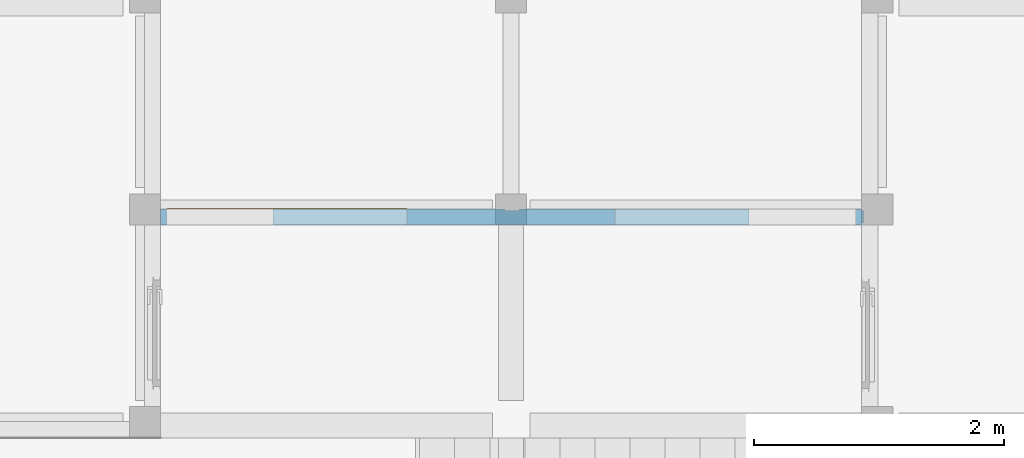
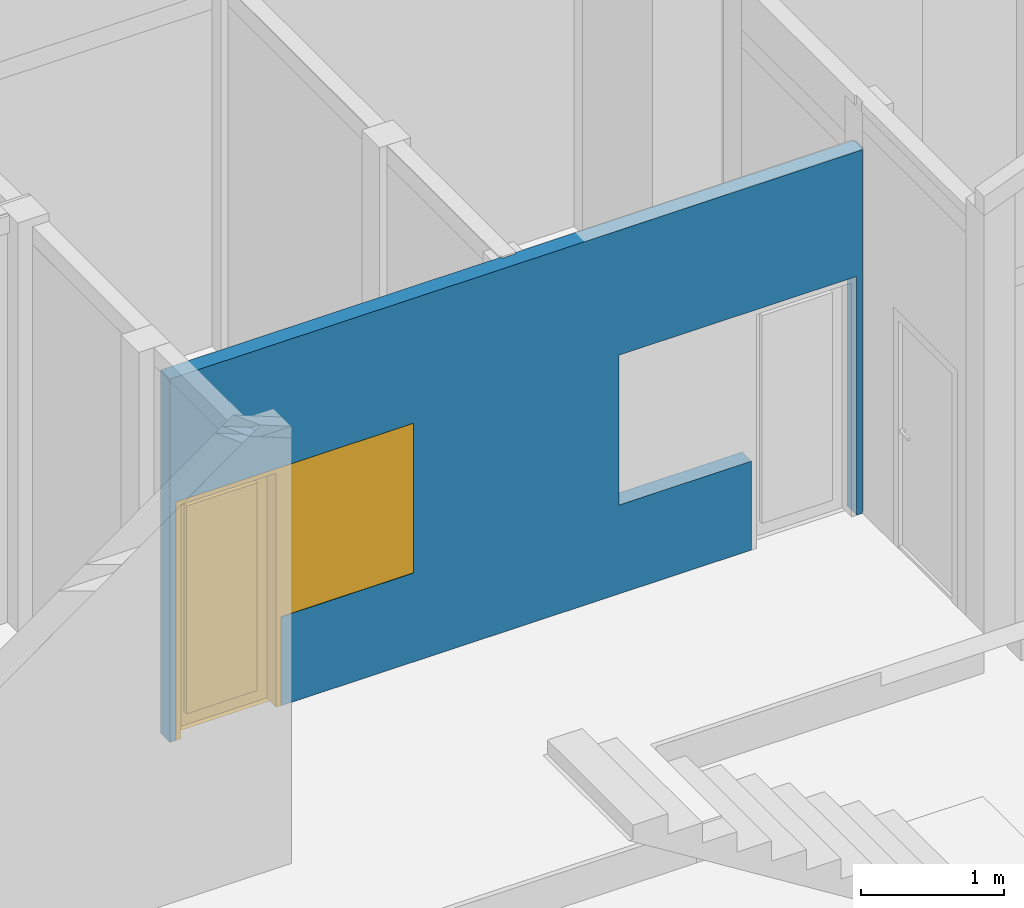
# One storey, part 3 of 8: 1 door, 1 wall, 2 openings.
"""IFC4X3_ADD2 building model written with IfcOpenShell, lengths in millimetres."""

from ifc_helpers import new_model, entity, si_unit, converted_unit, frame, origin_with_axes, origin_2d_with_axis, place, context, subcontext, project, spatial, line, indexed_curve, outline, extrude, polygons, source, transform, mapped, material, layer, layer_set, layer_usage, type_object, type_shapes, element, fill, save


model = new_model("IFC4X3_ADD2")

# Units and contexts
model_context = context("Model", 3, precision=1e-05, world=origin_with_axes())
plan_context = context("Plan", 2, precision=1e-05, world=origin_2d_with_axis())
body_context = subcontext(model_context, "Body", "Model", "MODEL_VIEW")
ifc_project = project(units=[si_unit("VOLUMEUNIT", "CUBIC_METRE"), si_unit("LENGTHUNIT", "METRE", prefix="MILLI"), converted_unit("PLANEANGLEUNIT", "degree", entity("IfcReal", 0.0174532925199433), si_unit("PLANEANGLEUNIT", "RADIAN"), dimensions=[0, 0, 0, 0, 0, 0, 0]), si_unit("AREAUNIT", "SQUARE_METRE")], contexts=[model_context, plan_context])

# Site, building, storey
site_placement = place(None, origin_with_axes())
site = spatial("IfcSite", under=ifc_project, at=site_placement, Name="My Site")
building_placement = place(site_placement, origin_with_axes())
building = spatial("IfcBuilding", under=site, at=building_placement, Name="My Building")
storey_placement = place(building_placement, origin_with_axes())
storey = spatial("IfcBuildingStorey", under=building, at=storey_placement, Name="Lantai 2")

# Wall, openings, door
ifc_material_1 = material(Name="plester")
ifc_layer_1 = layer(ifc_material_1, 15.0000009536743, Priority=1)
ifc_material_2 = material(Name="brick", Category="Uncategorised")
ifc_layer_2 = layer(ifc_material_2, 100.0, Priority=4)
ifc_layer_3 = layer(ifc_material_1, 15.0000009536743)
ifc_layer_set = layer_set([ifc_layer_1, ifc_layer_2, ifc_layer_3])
ifc_layer_usage = layer_usage(ifc_layer_set, "AXIS2", "NEGATIVE", 0.0)
wall_type = type_object("IfcWallType", Name="WALL-130", PredefinedType="SOLIDWALL", material=ifc_layer_set)
wall_placement = place(storey_placement, frame((8520.00086834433, 1549.99983310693, 3500.00023841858), z_axis=(0.0, 0.0, 1.0), x_axis=(-0.999999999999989, 1.50995802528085e-07, 0.0)))
wall = element("IfcWall", 1, at=wall_placement, inside=storey, type_object=wall_type, material=ifc_layer_usage, Name="Wall", context=body_context, shape_type="SweptSolid", body=[
    extrude(outline(indexed_curve([(-1.17678988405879e-05, -130.000001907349), (-1.04100642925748e-05, -115.000000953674), (-15.0000113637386, -115.000000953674), (-15.0000023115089, -15.0000009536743), (-1.35783454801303e-06, -15.0000009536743), (0.0, 0.0), (5600.00099997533, 0.0), (5600.00099997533, -130.000001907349), (2850.0005965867, -130.000001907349), (2850.00059724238, -115.000000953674), (2735.0005962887, -115.000000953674), (2735.00059563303, -130.000001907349)], segments=[line(1, 2, 3, 4, 5, 6, 7, 8, 9, 10, 11, 12, 1)])), origin_with_axes(), (0.0, 0.0, 1.0), 3107.2108745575),
])
shared_shape_1 = source(origin_with_axes(), body_context, "Body", "SweptSolid", [
    extrude(outline(indexed_curve([(850.000183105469, 0.0), (0.0, 0.0), (0.0, 2039.99987792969), (1920.0, 2039.99987792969), (1920.0, 759.999938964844), (850.000183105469, 759.999938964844), (850.000183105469, 0.0)])), frame((-9.53674259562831e-07, -600.0, 0.0), z_axis=(0.0, -1.0, 0.0), x_axis=(1.0, 0.0, 0.0)), (0.0, 0.0, -1.0), 1200.0),
])
opening_1_placement = place(wall_placement, frame((5549.99940965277, -2.84826399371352, 0.0), z_axis=(0.0, 0.0, 1.0), x_axis=(-0.999999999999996, 8.74227765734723e-08, 0.0)))
opening_1 = element("IfcOpeningElement", 2, at=opening_1_placement, cuts=wall, Name="Opening", PredefinedType="OPENING", context=body_context, shape_type="MappedRepresentation", body=[
    mapped(shared_shape_1, transform((0.0, 0.0, 0.0), x_axis=(1.0, 0.0, 0.0), y_axis=(0.0, 1.0, 0.0), z_axis=(0.0, 0.0, 1.0), scale=1.0)),
])
shared_shape_2 = source(origin_with_axes(), body_context, "Body", "SweptSolid", [
    extrude(outline(indexed_curve([(849.998352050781, 759.999755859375), (1919.99755859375, 759.999755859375), (1919.99755859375, 2039.99987792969), (0.0, 2039.99987792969), (0.0, 0.0), (849.998352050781, -3.23401396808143e-12), (849.998352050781, 759.999755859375)])), frame((0.0, -600.0, 0.0), z_axis=(0.0, -1.0, 0.0), x_axis=(1.0, 0.0, 0.0)), (0.0, 0.0, -1.0), 1200.0),
])
opening_2_placement = place(wall_placement, frame((50.0006209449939, -130.0001068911, 0.0), z_axis=(0.0, 0.0, 1.0), x_axis=(1.0, 2.64697796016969e-23, 0.0)))
element("IfcOpeningElement", 3, at=opening_2_placement, cuts=wall, Name="Opening", PredefinedType="OPENING", context=body_context, shape_type="MappedRepresentation", body=[
    mapped(shared_shape_2, transform((0.0, 0.0, 0.0), x_axis=(1.0, 0.0, 0.0), y_axis=(0.0, 1.0, 0.0), z_axis=(0.0, 0.0, 1.0), scale=1.0)),
])
door_type = type_object("IfcDoorType", Name="1", OperationType="NOTDEFINED", PredefinedType="DOOR")
shared_shape_3 = source(origin_with_axes(), body_context, "Body", "Tessellation", [
    polygons([(-0.000953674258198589, 0.0, 1999.99975585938), (-0.000953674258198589, 0.0, 0.0), (39.9992446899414, 0.0, 0.0), (39.9992446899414, 0.0, 1999.99975585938), (-0.000953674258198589, 0.0, 2039.99987792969), (39.9992446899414, 0.0, 2039.99987792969), (809.999633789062, 0.0, 1999.99975585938), (809.999633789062, 0.0, 2039.99987792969), (849.999633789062, 0.0, 1999.99975585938), (849.999633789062, 0.0, 2039.99987792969), (809.999633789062, 0.0, 760.000122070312), (809.999633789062, 0.0, 0.0), (849.999633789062, 0.0, 0.0), (849.999633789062, 0.0, 760.000122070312), (1349.99963378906, 0.0, 1999.99975585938), (1349.99963378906, 0.0, 2039.99987792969), (1379.99938964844, 0.0, 1999.99975585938), (1379.99938964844, 0.0, 2039.99987792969), (1349.99963378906, 0.0, 800.000061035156), (1379.99938964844, 0.0, 800.000061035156), (1879.99951171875, 0.0, 1999.99975585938), (1879.99951171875, 0.0, 2039.99987792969), (1919.99951171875, 0.0, 1999.99975585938), (1919.99951171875, 0.0, 2039.99987792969), (1879.99951171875, 0.0, 800.000061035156), (1919.99951171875, 0.0, 800.000061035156), (1879.99951171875, 0.0, 760.000122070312), (1919.99951171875, 0.0, 760.000122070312), (1349.99963378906, 0.0, 760.000122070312), (1379.99938964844, 0.0, 760.000122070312), (809.999633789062, 0.0, 800.000061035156), (849.999633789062, 0.0, 800.000061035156), (-0.000953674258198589, 129.999969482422, 0.0), (39.9992446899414, 129.999969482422, 1999.99975585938), (39.9992446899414, 129.999969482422, 0.0), (-0.000953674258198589, 129.999969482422, 1999.99975585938), (-0.000953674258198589, 129.999969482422, 2039.99987792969), (39.9992446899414, 129.999969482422, 2039.99987792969), (809.999633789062, 129.999969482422, 2039.99987792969), (809.999633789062, 129.999969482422, 1999.99975585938), (849.999633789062, 129.999969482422, 2039.99987792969), (849.999633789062, 129.999969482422, 1999.99975585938), (809.999633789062, 129.999969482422, 0.0), (809.999633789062, 129.999969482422, 760.000122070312), (849.999633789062, 129.999969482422, 760.000122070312), (849.999633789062, 129.999969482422, 0.0), (1349.99963378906, 129.999969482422, 2039.99987792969), (1349.99963378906, 129.999969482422, 1999.99975585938), (1379.99938964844, 129.999969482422, 2039.99987792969), (1379.99938964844, 129.999969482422, 1999.99975585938), (1349.99963378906, 129.999969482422, 800.000061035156), (1379.99938964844, 129.999969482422, 800.000061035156), (1879.99951171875, 129.999969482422, 2039.99987792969), (1879.99951171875, 129.999969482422, 1999.99975585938), (1919.99951171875, 129.999969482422, 2039.99987792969), (1919.99951171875, 129.999969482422, 1999.99975585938), (1879.99951171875, 129.999969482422, 800.000061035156), (1919.99951171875, 129.999969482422, 800.000061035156), (1879.99951171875, 129.999969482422, 760.000122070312), (1919.99951171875, 129.999969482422, 760.000122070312), (1349.99963378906, 129.999969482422, 760.000122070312), (1379.99938964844, 129.999969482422, 760.000122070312), (809.999633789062, 129.999969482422, 800.000061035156), (849.999633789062, 129.999969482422, 800.000061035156)], [[[1, 2, 3]], [[1, 3, 4]], [[5, 4, 6]], [[5, 1, 4]], [[6, 4, 7]], [[6, 7, 8]], [[8, 7, 9]], [[8, 9, 10]], [[11, 12, 13]], [[11, 13, 14]], [[10, 9, 15]], [[10, 15, 16]], [[16, 15, 17]], [[16, 17, 18]], [[15, 19, 20]], [[15, 20, 17]], [[18, 17, 21]], [[18, 21, 22]], [[22, 21, 23]], [[22, 23, 24]], [[21, 25, 26]], [[21, 26, 23]], [[25, 27, 28]], [[25, 28, 26]], [[19, 29, 30]], [[19, 30, 20]], [[31, 11, 14]], [[31, 14, 32]], [[7, 31, 32]], [[7, 32, 9]], [[14, 29, 19]], [[32, 14, 19]], [[20, 27, 25]], [[20, 30, 27]], [[33, 34, 35]], [[33, 36, 34]], [[36, 37, 38]], [[36, 38, 34]], [[34, 38, 39]], [[34, 39, 40]], [[40, 39, 41]], [[40, 41, 42]], [[43, 44, 45]], [[43, 45, 46]], [[42, 41, 47]], [[42, 47, 48]], [[48, 47, 49]], [[48, 49, 50]], [[51, 48, 50]], [[51, 50, 52]], [[50, 49, 53]], [[50, 53, 54]], [[54, 53, 55]], [[54, 55, 56]], [[57, 54, 56]], [[57, 56, 58]], [[59, 57, 58]], [[59, 58, 60]], [[61, 51, 52]], [[61, 52, 62]], [[44, 63, 64]], [[44, 64, 45]], [[63, 40, 42]], [[63, 42, 64]], [[45, 64, 51]], [[45, 51, 61]], [[62, 52, 57]], [[62, 57, 59]], [[19, 15, 48]], [[19, 48, 51]], [[17, 20, 52]], [[17, 52, 50]], [[41, 8, 10]], [[41, 39, 8]], [[50, 21, 17]], [[50, 54, 21]], [[43, 13, 12]], [[43, 46, 13]], [[12, 11, 44]], [[12, 44, 43]], [[4, 3, 35]], [[4, 35, 34]], [[53, 18, 22]], [[53, 49, 18]], [[31, 7, 40]], [[31, 40, 63]], [[2, 1, 36]], [[2, 36, 33]], [[24, 23, 56]], [[24, 56, 55]], [[14, 13, 46]], [[14, 46, 45]], [[11, 31, 63]], [[11, 63, 44]], [[33, 3, 2]], [[33, 35, 3]], [[55, 22, 24]], [[55, 53, 22]], [[42, 15, 9]], [[42, 48, 15]], [[9, 32, 64]], [[9, 64, 42]], [[38, 5, 6]], [[38, 37, 5]], [[47, 10, 16]], [[47, 41, 10]], [[25, 21, 54]], [[25, 54, 57]], [[45, 29, 14]], [[45, 61, 29]], [[1, 5, 37]], [[1, 37, 36]], [[23, 26, 58]], [[23, 58, 56]], [[51, 32, 19]], [[51, 64, 32]], [[61, 30, 29]], [[61, 62, 30]], [[49, 16, 18]], [[49, 47, 16]], [[62, 27, 30]], [[62, 59, 27]], [[34, 7, 4]], [[34, 40, 7]], [[59, 28, 27]], [[59, 60, 28]], [[57, 20, 25]], [[57, 52, 20]], [[39, 6, 8]], [[39, 38, 6]], [[26, 28, 60]], [[26, 60, 58]]]),
    polygons([(1350.00012207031, 0.0, 859.999938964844), (1350.00012207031, 30.0, 859.999938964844), (1350.00012207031, 30.0, 799.999938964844), (1350.00012207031, 0.0, 799.999938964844), (1290.00012207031, 0.0, 859.999938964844), (1350.00012207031, 0.0, 1939.99975585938), (1290.00012207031, 0.0, 1939.99975585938), (910.000244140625, 30.0, 1939.99975585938), (1290.00012207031, 30.0, 1939.99975585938), (910.000244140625, 0.0, 1939.99975585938), (910.000244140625, 0.0, 1999.99975585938), (1290.00012207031, 0.0, 1999.99975585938), (1290.00012207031, 30.0, 1999.99975585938), (1350.00012207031, 30.0, 1999.99975585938), (1350.00012207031, 0.0, 1999.99975585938), (1350.00012207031, 30.0, 1939.99975585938), (1290.00012207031, 30.0, 859.999938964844), (910.000244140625, 30.0, 799.999938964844), (1290.00012207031, 30.0, 799.999938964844), (910.000244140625, 30.0, 859.999938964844), (910.000244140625, 0.0, 859.999938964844), (850.000305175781, 0.0, 1939.99975585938), (850.000305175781, 0.0, 859.999938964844), (910.000244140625, 0.0, 799.999938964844), (1290.00012207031, 0.0, 799.999938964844), (850.000305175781, 30.0, 799.999938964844), (850.000305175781, 0.0, 799.999938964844), (850.000305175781, 30.0, 859.999938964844), (850.000305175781, 30.0, 1939.99975585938), (850.000305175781, 30.0, 1999.99975585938), (910.000244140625, 30.0, 1999.99975585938), (850.000305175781, 0.0, 1999.99975585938)], [[[6, 1, 2]], [[1, 3, 2]], [[1, 4, 3]], [[5, 4, 1]], [[7, 5, 1]], [[7, 1, 6]], [[5, 7, 9]], [[12, 7, 6]], [[8, 7, 10]], [[8, 9, 7]], [[11, 10, 7]], [[11, 7, 12]], [[13, 11, 12]], [[12, 6, 15]], [[14, 13, 12]], [[14, 12, 15]], [[15, 16, 14]], [[15, 6, 16]], [[9, 14, 16]], [[17, 9, 16]], [[17, 16, 2]], [[6, 2, 16]], [[5, 9, 17]], [[19, 17, 2]], [[18, 20, 17]], [[18, 17, 19]], [[17, 20, 21]], [[17, 21, 5]], [[10, 21, 20]], [[21, 25, 5]], [[22, 21, 10]], [[22, 23, 21]], [[23, 24, 21]], [[21, 24, 25]], [[18, 25, 24]], [[5, 25, 4]], [[19, 4, 25]], [[18, 19, 25]], [[23, 27, 24]], [[26, 18, 24]], [[26, 24, 27]], [[27, 28, 26]], [[27, 23, 28]], [[23, 29, 28]], [[28, 29, 8]], [[28, 8, 20]], [[26, 28, 20]], [[23, 22, 29]], [[22, 30, 29]], [[29, 30, 31]], [[29, 31, 8]], [[31, 32, 11]], [[31, 30, 32]], [[13, 31, 11]], [[8, 31, 13]], [[32, 10, 11]], [[32, 22, 10]], [[22, 32, 30]], [[26, 20, 18]], [[10, 20, 8]], [[19, 2, 3]], [[19, 3, 4]], [[9, 13, 14]], [[8, 13, 9]]]),
    polygons([(139.999267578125, 89.9999542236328, 120.0), (139.999267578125, 129.999938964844, 120.0), (139.999267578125, 129.999938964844, 1899.99963378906), (139.999267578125, 89.9999542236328, 1899.99963378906), (39.9992446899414, 89.9999542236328, 120.0), (709.9990234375, 89.9999542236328, 120.0), (39.9992446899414, 89.9999542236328, 0.0), (139.999267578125, 89.9999542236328, 0.0), (139.999267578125, 129.999938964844, 0.0), (709.9990234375, 129.999938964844, 0.0), (709.9990234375, 89.9999542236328, 0.0), (809.999206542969, 89.9999542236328, 120.0), (809.999206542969, 89.9999542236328, 0.0), (809.999206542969, 129.999938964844, 0.0), (709.9990234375, 129.999938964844, 120.0), (809.999206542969, 129.999938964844, 120.0), (809.999206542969, 129.999938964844, 1899.99963378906), (709.9990234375, 129.999938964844, 1899.99963378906), (139.999267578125, 129.999938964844, 1999.99975585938), (709.9990234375, 129.999938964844, 1999.99975585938), (709.9990234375, 89.9999542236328, 1899.99963378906), (709.9990234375, 89.9999542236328, 1999.99975585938), (809.999206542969, 89.9999542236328, 1999.99975585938), (809.999206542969, 89.9999542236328, 1899.99963378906), (809.999206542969, 129.999938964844, 1999.99975585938), (139.999267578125, 89.9999542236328, 1999.99975585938), (39.9992446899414, 89.9999542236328, 1899.99963378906), (39.9992446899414, 89.9999542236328, 1999.99975585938), (39.9992446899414, 129.999938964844, 1999.99975585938), (39.9992446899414, 129.999938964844, 1899.99963378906), (39.9992446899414, 129.999938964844, 120.0), (39.9992446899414, 129.999938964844, 0.0)], [[[2, 6, 1]], [[1, 3, 2]], [[1, 4, 3]], [[5, 4, 1]], [[7, 5, 1]], [[8, 1, 6]], [[7, 1, 8]], [[9, 7, 8]], [[8, 6, 11]], [[10, 9, 8]], [[10, 8, 11]], [[11, 12, 13]], [[11, 6, 12]], [[14, 11, 13]], [[14, 10, 11]], [[15, 10, 14]], [[13, 16, 14]], [[15, 14, 16]], [[13, 12, 16]], [[12, 17, 16]], [[18, 16, 17]], [[18, 15, 16]], [[19, 3, 18]], [[19, 18, 20]], [[20, 18, 17]], [[18, 3, 4]], [[18, 4, 21]], [[21, 15, 18]], [[4, 22, 21]], [[21, 22, 23]], [[21, 23, 24]], [[6, 21, 24]], [[21, 6, 15]], [[24, 25, 17]], [[24, 23, 25]], [[6, 24, 12]], [[12, 24, 17]], [[20, 17, 25]], [[20, 25, 23]], [[20, 23, 22]], [[19, 22, 26]], [[19, 20, 22]], [[4, 26, 22]], [[27, 28, 26]], [[27, 26, 4]], [[29, 26, 28]], [[29, 19, 26]], [[28, 30, 29]], [[29, 30, 3]], [[29, 3, 19]], [[28, 27, 30]], [[27, 31, 30]], [[30, 31, 2]], [[30, 2, 3]], [[31, 9, 2]], [[31, 32, 9]], [[5, 32, 31]], [[27, 5, 31]], [[9, 32, 7]], [[5, 7, 32]], [[5, 27, 4]], [[2, 15, 6]], [[2, 10, 15]], [[2, 9, 10]]]),
    polygons([(139.999267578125, 94.9999465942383, 120.0), (139.999267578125, 124.999946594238, 120.0), (139.999267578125, 124.999946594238, 1899.99963378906), (139.999267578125, 94.9999465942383, 1899.99963378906), (709.9990234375, 94.9999465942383, 120.0), (709.9990234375, 94.9999465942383, 1899.99963378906), (709.9990234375, 124.999946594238, 120.0), (709.9990234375, 124.999946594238, 1899.99963378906)], [[[2, 5, 1]], [[1, 3, 2]], [[1, 4, 3]], [[4, 1, 5]], [[4, 5, 6]], [[2, 7, 5]], [[6, 5, 7]], [[6, 7, 8]], [[2, 8, 7]], [[2, 3, 8]], [[8, 4, 6]], [[8, 3, 4]]]),
    polygons([(1290.00012207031, 4.99999475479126, 1939.99975585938), (910.000244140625, 0.0, 1939.99975585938), (910.000244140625, 4.99999475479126, 1939.99975585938), (1290.00012207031, 0.0, 1939.99975585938), (910.000244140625, 4.99999475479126, 859.999938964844), (1290.00012207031, 4.99999475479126, 859.999938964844), (1290.00012207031, 0.0, 859.999938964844), (910.000244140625, 0.0, 859.999938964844)], [[[1, 2, 4]], [[1, 3, 2]], [[5, 3, 1]], [[4, 6, 1]], [[5, 1, 6]], [[5, 6, 7]], [[4, 7, 6]], [[2, 8, 7]], [[2, 7, 4]], [[5, 7, 8]], [[8, 3, 5]], [[8, 2, 3]]]),
    polygons([(1879.99890136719, 0.0, 859.999938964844), (1879.99890136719, 30.0, 859.999938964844), (1879.99890136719, 30.0, 799.999938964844), (1879.99890136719, 0.0, 799.999938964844), (1819.99890136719, 0.0, 859.999938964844), (1879.99890136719, 0.0, 1939.99975585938), (1819.99890136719, 0.0, 1939.99975585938), (1439.99890136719, 30.0, 1939.99975585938), (1819.99890136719, 30.0, 1939.99975585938), (1439.99890136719, 0.0, 1939.99975585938), (1439.99890136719, 0.0, 1999.99975585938), (1819.99890136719, 0.0, 1999.99975585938), (1819.99890136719, 30.0, 1999.99975585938), (1879.99890136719, 30.0, 1999.99975585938), (1879.99890136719, 0.0, 1999.99975585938), (1879.99890136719, 30.0, 1939.99975585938), (1819.99890136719, 30.0, 859.999938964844), (1439.99890136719, 30.0, 799.999938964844), (1819.99890136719, 30.0, 799.999938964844), (1439.99890136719, 30.0, 859.999938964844), (1439.99890136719, 0.0, 859.999938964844), (1379.99890136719, 0.0, 1939.99975585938), (1379.99890136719, 0.0, 859.999938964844), (1439.99890136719, 0.0, 799.999938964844), (1819.99890136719, 0.0, 799.999938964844), (1379.99890136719, 30.0, 799.999938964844), (1379.99890136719, 0.0, 799.999938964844), (1379.99890136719, 30.0, 859.999938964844), (1379.99890136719, 30.0, 1939.99975585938), (1379.99890136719, 30.0, 1999.99975585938), (1439.99890136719, 30.0, 1999.99975585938), (1379.99890136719, 0.0, 1999.99975585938)], [[[6, 1, 2]], [[1, 3, 2]], [[1, 4, 3]], [[5, 4, 1]], [[7, 5, 1]], [[7, 1, 6]], [[5, 7, 9]], [[12, 7, 6]], [[8, 7, 10]], [[8, 9, 7]], [[11, 10, 7]], [[11, 7, 12]], [[13, 11, 12]], [[12, 6, 15]], [[14, 13, 12]], [[14, 12, 15]], [[15, 16, 14]], [[15, 6, 16]], [[9, 14, 16]], [[17, 9, 16]], [[17, 16, 2]], [[6, 2, 16]], [[5, 9, 17]], [[19, 17, 2]], [[18, 20, 17]], [[18, 17, 19]], [[17, 20, 21]], [[17, 21, 5]], [[10, 21, 20]], [[21, 25, 5]], [[22, 21, 10]], [[22, 23, 21]], [[23, 24, 21]], [[21, 24, 25]], [[18, 25, 24]], [[5, 25, 4]], [[19, 4, 25]], [[18, 19, 25]], [[23, 27, 24]], [[26, 18, 24]], [[26, 24, 27]], [[27, 28, 26]], [[27, 23, 28]], [[23, 29, 28]], [[28, 29, 8]], [[28, 8, 20]], [[26, 28, 20]], [[23, 22, 29]], [[22, 30, 29]], [[29, 30, 31]], [[29, 31, 8]], [[31, 32, 11]], [[31, 30, 32]], [[13, 31, 11]], [[8, 31, 13]], [[32, 10, 11]], [[32, 22, 10]], [[22, 32, 30]], [[26, 20, 18]], [[10, 20, 8]], [[19, 2, 3]], [[19, 3, 4]], [[9, 13, 14]], [[8, 13, 9]]]),
    polygons([(1819.99890136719, 4.99999475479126, 1939.99975585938), (1439.99890136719, 0.0, 1939.99975585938), (1439.99890136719, 4.99999475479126, 1939.99975585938), (1819.99890136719, 0.0, 1939.99975585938), (1439.99890136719, 4.99999475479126, 859.999938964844), (1819.99890136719, 4.99999475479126, 859.999938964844), (1819.99890136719, 0.0, 859.999938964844), (1439.99890136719, 0.0, 859.999938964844)], [[[1, 2, 4]], [[1, 3, 2]], [[5, 3, 1]], [[4, 6, 1]], [[5, 1, 6]], [[5, 6, 7]], [[4, 7, 6]], [[2, 8, 7]], [[2, 7, 4]], [[5, 7, 8]], [[8, 3, 5]], [[8, 2, 3]]]),
])
type_shapes(door_type, [shared_shape_3])
door_placement = place(opening_1_placement, frame((1.33226762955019e-12, -2.22044604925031e-13, 0.0), z_axis=(0.0, 0.0, 1.0), x_axis=(1.0, -5.29395592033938e-23, 0.0)))
door = element("IfcDoor", 4, at=door_placement, inside=storey, type_object=door_type, Name="Door", context=body_context, shape_type="MappedRepresentation", body=[
    mapped(shared_shape_3, transform((0.0, 0.0, 0.0), x_axis=(1.0, 0.0, 0.0), y_axis=(0.0, 1.0, 0.0), z_axis=(0.0, 0.0, 1.0), scale=1.0)),
])
fill(opening_1, door)

save(model, "model.ifc")
